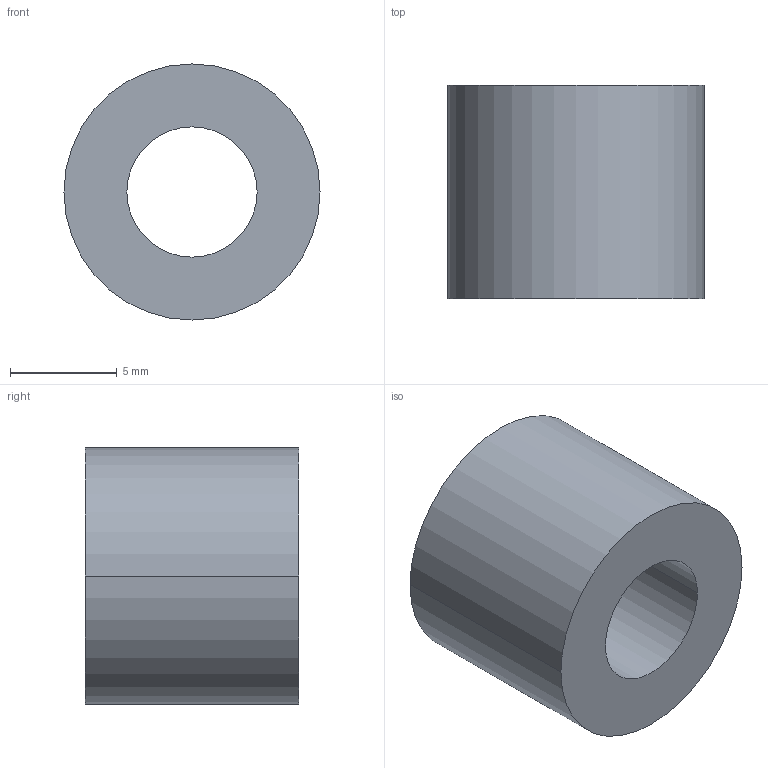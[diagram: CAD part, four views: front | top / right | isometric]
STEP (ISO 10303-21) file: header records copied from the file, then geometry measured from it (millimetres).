
FILE_DESCRIPTION (( 'STEP AP203' ), '1' );
FILE_NAME ('30800.WPP12D6.1.step', '2019-01-23T22:24:27', ( '' ), ( '' ), 'SwSTEP 2.0', 'SolidWorks 2017', '' );
FILE_SCHEMA (( 'CONFIG_CONTROL_DESIGN' ));
Length unit declared in the file: millimetre
Products named in the file (1): 30800.WPP12D6.1
Bounding box: 12 x 10 x 12 mm (x, y, z)
Volume: 828.5 mm3; surface area: 725 mm2
Topology: 1 solids, 1 shells, 8 faces, 16 edges, 10 vertices
Faces by surface type: cylinder 4, torus 2, plane 2
Entity records: 297 total; most frequent: DIRECTION 46, CARTESIAN_POINT 35, ORIENTED_EDGE 32, AXIS2_PLACEMENT_3D 21, EDGE_CURVE 16, CIRCLE 12, VERTEX_POINT 10, EDGE_LOOP 10
